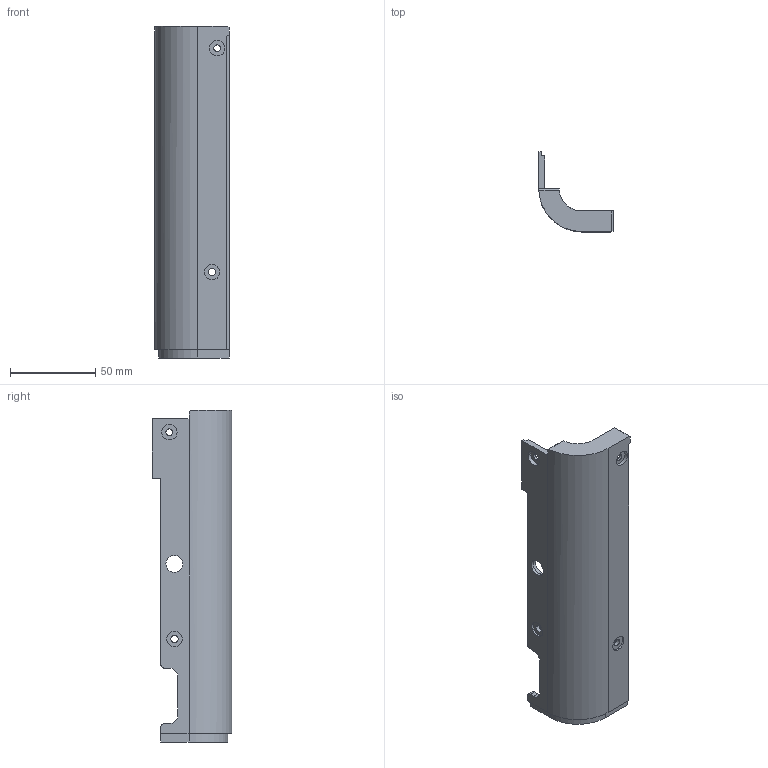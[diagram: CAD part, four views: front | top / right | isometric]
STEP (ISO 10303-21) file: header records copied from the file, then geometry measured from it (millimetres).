
FILE_DESCRIPTION (( 'STEP AP203' ), '1' );
FILE_NAME ('誘啣-A1.STEP', '2024-01-02T07:29:03', ( '' ), ( '' ), 'SwSTEP 2.0', 'SolidWorks 2014', '' );
FILE_SCHEMA (( 'CONFIG_CONTROL_DESIGN' ));
Length unit declared in the file: millimetre
Products named in the file (1): 誘啣-A1
Bounding box: 43.5 x 46.5 x 194.25 mm (x, y, z)
Volume: 47098.2 mm3; surface area: 30220 mm2
Topology: 1 solids, 1 shells, 97 faces, 249 edges, 165 vertices
Faces by surface type: plane 58, cylinder 37, bspline 2
Entity records: 3120 total; most frequent: CARTESIAN_POINT 600, DIRECTION 511, ORIENTED_EDGE 498, EDGE_CURVE 249, AXIS2_PLACEMENT_3D 172, LINE 167, VECTOR 167, VERTEX_POINT 165
